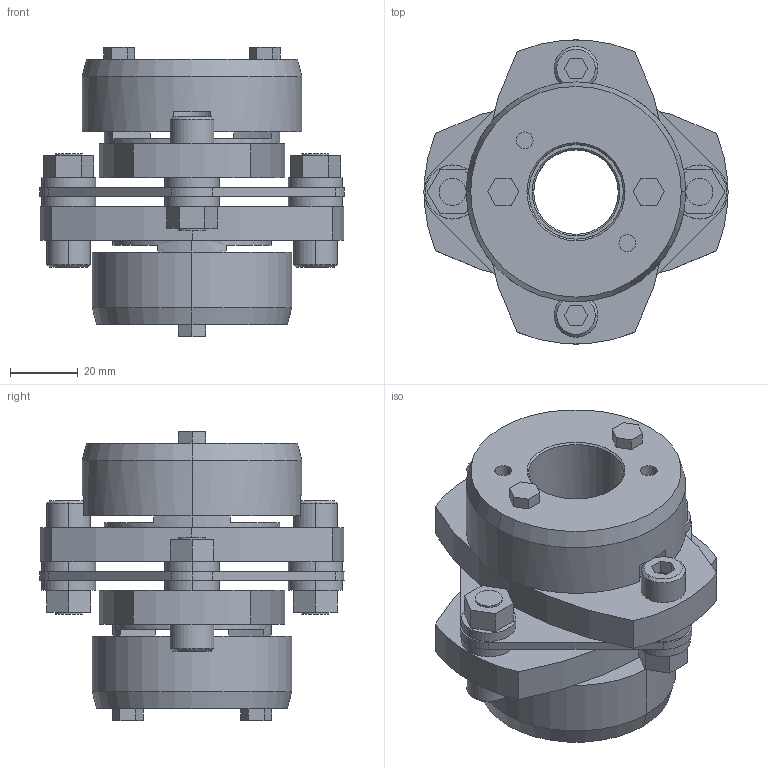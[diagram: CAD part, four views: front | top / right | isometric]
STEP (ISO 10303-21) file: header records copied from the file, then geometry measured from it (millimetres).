
FILE_DESCRIPTION((''),'2;1');
FILE_NAME('LCS-90T7-25×28.stp','2015-11-01T20:19:19',(''),(''),'AutoCAD STEP 2000i','AutoCAD 2000i',', , ');
FILE_SCHEMA(('CONFIG_CONTROL_DESIGN'));
Length unit declared in the file: millimetre
Products named in the file (10): LCS-90T7-25×30; 忣兜1; LC90T7-T030; LC90T7-T025-1; LC90T7-T025; LC90T7-T019-1; LC90T7-T019; LC90-B019-1; LC90-B019; LCS90-ITA
Assembly tree (9 placements, depth 2):
  LCS-90T7-25×30
    忣兜1
    LC90T7-T030
    LC90T7-T025-1
    LC90T7-T025
    LC90T7-T019-1
    LC90T7-T019
    LC90-B019-1
    LC90-B019
    LCS90-ITA
Bounding box: 90 x 89.94 x 85.5 mm (x, y, z)
Volume: 204763.6 mm3; surface area: 53080.9 mm2
Topology: 1 solids, 1 shells, 222 faces, 544 edges, 356 vertices
Faces by surface type: plane 120, cylinder 82, cone 20
Entity records: 6829 total; most frequent: DIRECTION 1212, CARTESIAN_POINT 1132, ORIENTED_EDGE 1088, EDGE_CURVE 544, AXIS2_PLACEMENT_3D 436, VERTEX_POINT 356, VECTOR 340, LINE 340
